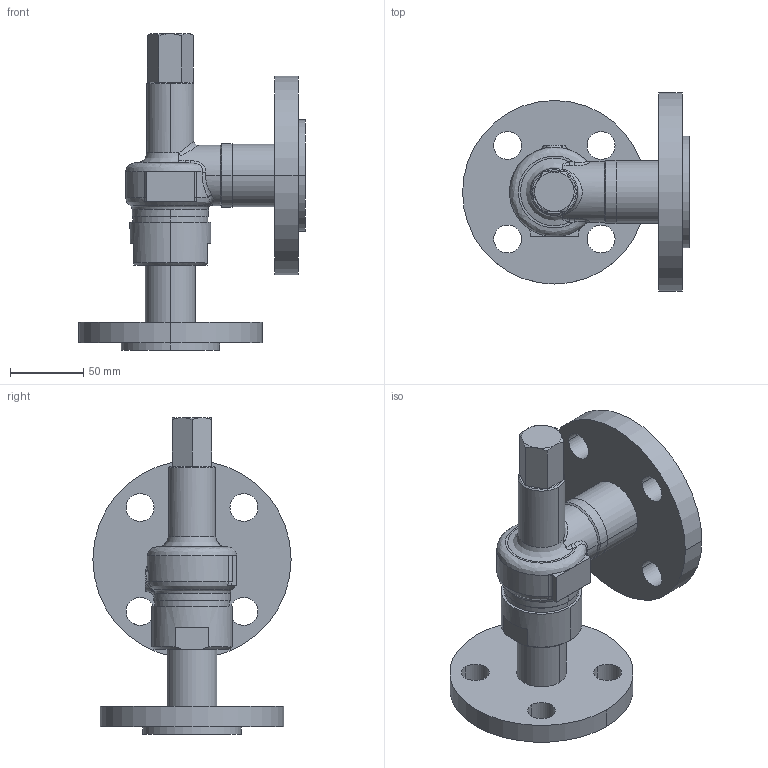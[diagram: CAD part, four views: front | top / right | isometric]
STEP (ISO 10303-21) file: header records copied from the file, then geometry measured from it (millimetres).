
FILE_DESCRIPTION( (''), '2;1');
FILE_NAME ('PC1027.9568.AL-32 25A_5221.stp','2025-07-28T13:25:19',(''),(''),'spGate 19.8.4 (****-****-****-****)','','');
FILE_SCHEMA (('AUTOMOTIVE_DESIGN'));
Length unit declared in the file: millimetre
Products named in the file (2): Assembly; AL-32 25A-3D
Assembly tree (1 placements, depth 2):
  Assembly
    AL-32 25A-3D
Bounding box: 154.5 x 135 x 215.5 mm (x, y, z)
Volume: 712618.5 mm3; surface area: 107809.8 mm2
Topology: 1 solids, 1 shells, 140 faces, 333 edges, 204 vertices
Faces by surface type: cylinder 50, plane 43, bspline 43, sphere 4
Entity records: 8434 total; most frequent: CARTESIAN_POINT 2748, ORIENTED_EDGE 666, DIRECTION 572, COLOUR_RGB 474, PRESENTATION_STYLE_ASSIGNMENT 474, STYLED_ITEM 474, EDGE_CURVE 333, DRAUGHTING_PRE_DEFINED_CURVE_FONT 333
